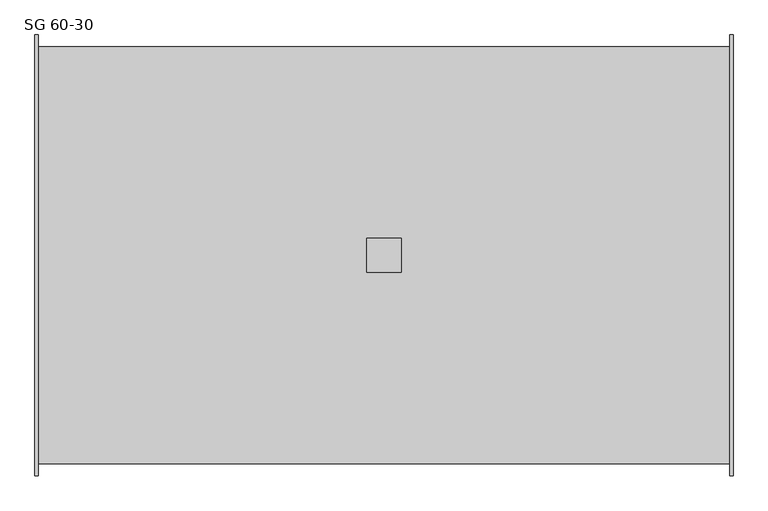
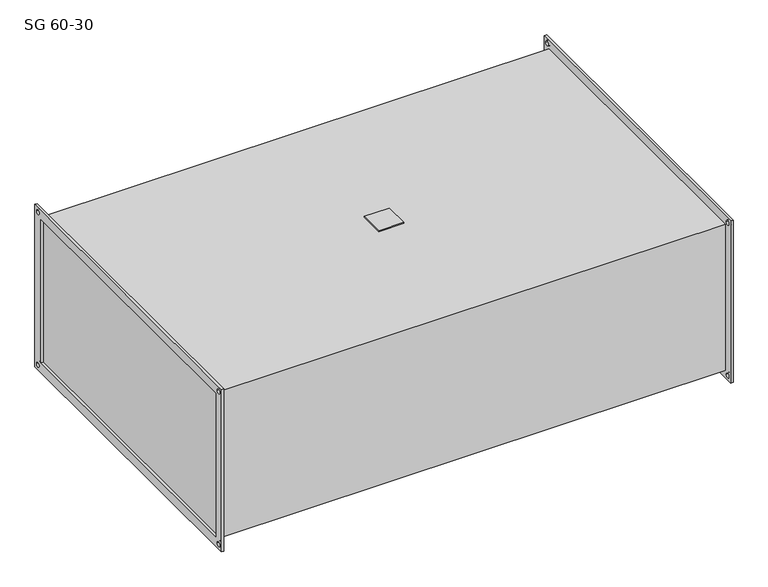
"""IFC4 building model written with IfcOpenShell, lengths in millimetres: damper geometry, KORF_Шумоглушитель_SG : SG 60-30."""

from ifc_helpers import new_model, si_unit, point, frame, frame_2d, origin, place, context, project, spatial, polyline, circle_curve, trimmed, segment, composite_curve, outline, extrude, source, transform, mapped, element, save


def sg_60_30_53cb04a9(model_context):
    return source(origin(), model_context, "Body", "SweptSolid", [
        extrude(outline(polyline([(482.0, -25.0), (482.0, 25.0), (532.0, 25.0), (532.0, -25.0), (482.0, -25.0)])), frame((0.0, 0.0, 153.0), z_axis=(0.0, 0.0, 1.0), x_axis=(1.0, 0.0, 0.0)), (0.0, 0.0, 1.0), 2.0),
        extrude(outline(polyline([(-320.0, 170.0), (320.0, 170.0), (320.0, -170.0), (-320.0, -170.0), (-320.0, 170.0)]), holes=[polyline([(-300.0, 150.0), (-300.0, -150.0), (300.0, -150.0), (300.0, 150.0), (-300.0, 150.0)]), composite_curve([segment(trimmed(circle_curve(frame_2d((310.0, 160.0)), 4.5), [point((305.5, 160.0))], [point((314.5, 160.0))], True, "CARTESIAN"), True, "CONTINUOUS"), segment(trimmed(circle_curve(frame_2d((310.0, 160.0)), 4.5), [point((314.5, 160.0))], [point((305.5, 160.0))], True, "CARTESIAN"), True, "CONTINUOUS")], self_intersect=False), composite_curve([segment(trimmed(circle_curve(frame_2d((-310.0, 160.0)), 4.5), [point((-314.5, 160.0))], [point((-305.5, 160.0))], True, "CARTESIAN"), True, "CONTINUOUS"), segment(trimmed(circle_curve(frame_2d((-310.0, 160.0)), 4.5), [point((-305.5, 160.0))], [point((-314.5, 160.0))], True, "CARTESIAN"), True, "CONTINUOUS")], self_intersect=False), composite_curve([segment(trimmed(circle_curve(frame_2d((-310.0, -160.0)), 4.5), [point((-314.5, -160.0))], [point((-305.5, -160.0))], True, "CARTESIAN"), True, "CONTINUOUS"), segment(trimmed(circle_curve(frame_2d((-310.0, -160.0)), 4.5), [point((-305.5, -160.0))], [point((-314.5, -160.0))], True, "CARTESIAN"), True, "CONTINUOUS")], self_intersect=False), composite_curve([segment(trimmed(circle_curve(frame_2d((310.0, -160.0)), 4.5), [point((305.5, -160.0))], [point((314.5, -160.0))], True, "CARTESIAN"), True, "CONTINUOUS"), segment(trimmed(circle_curve(frame_2d((310.0, -160.0)), 4.5), [point((314.5, -160.0))], [point((305.5, -160.0))], True, "CARTESIAN"), True, "CONTINUOUS")], self_intersect=False)]), frame((1009.0, 0.0, 0.0), z_axis=(1.0, 0.0, 0.0), x_axis=(0.0, 1.0, 0.0)), (0.0, 0.0, 1.0), 5.0),
        extrude(outline(polyline([(-320.0, 170.0), (320.0, 170.0), (320.0, -170.0), (-320.0, -170.0), (-320.0, 170.0)]), holes=[polyline([(-300.0, 150.0), (-300.0, -150.0), (300.0, -150.0), (300.0, 150.0), (-300.0, 150.0)]), composite_curve([segment(trimmed(circle_curve(frame_2d((310.0, 160.0)), 4.5), [point((305.5, 160.0))], [point((314.5, 160.0))], True, "CARTESIAN"), True, "CONTINUOUS"), segment(trimmed(circle_curve(frame_2d((310.0, 160.0)), 4.5), [point((314.5, 160.0))], [point((305.5, 160.0))], True, "CARTESIAN"), True, "CONTINUOUS")], self_intersect=False), composite_curve([segment(trimmed(circle_curve(frame_2d((-310.0, 160.0)), 4.5), [point((-314.5, 160.0))], [point((-305.5, 160.0))], True, "CARTESIAN"), True, "CONTINUOUS"), segment(trimmed(circle_curve(frame_2d((-310.0, 160.0)), 4.5), [point((-305.5, 160.0))], [point((-314.5, 160.0))], True, "CARTESIAN"), True, "CONTINUOUS")], self_intersect=False), composite_curve([segment(trimmed(circle_curve(frame_2d((-310.0, -160.0)), 4.5), [point((-314.5, -160.0))], [point((-305.5, -160.0))], True, "CARTESIAN"), True, "CONTINUOUS"), segment(trimmed(circle_curve(frame_2d((-310.0, -160.0)), 4.5), [point((-305.5, -160.0))], [point((-314.5, -160.0))], True, "CARTESIAN"), True, "CONTINUOUS")], self_intersect=False), composite_curve([segment(trimmed(circle_curve(frame_2d((310.0, -160.0)), 4.5), [point((305.5, -160.0))], [point((314.5, -160.0))], True, "CARTESIAN"), True, "CONTINUOUS"), segment(trimmed(circle_curve(frame_2d((310.0, -160.0)), 4.5), [point((314.5, -160.0))], [point((305.5, -160.0))], True, "CARTESIAN"), True, "CONTINUOUS")], self_intersect=False)]), frame((0.0, 0.0, 0.0), z_axis=(1.0, 0.0, 0.0), x_axis=(0.0, 1.0, 0.0)), (0.0, 0.0, 1.0), 5.0),
        extrude(outline(polyline([(1009.0, 303.0), (1009.0, -303.0), (5.0, -303.0), (5.0, 303.0), (1009.0, 303.0)])), frame((0.0, 0.0, -153.0), z_axis=(0.0, 0.0, 1.0), x_axis=(1.0, 0.0, 0.0)), (0.0, 0.0, 1.0), 306.0),
    ])


if __name__ == "__main__":
    model = new_model("IFC4")
    model_context = context("Model", 3, world=origin())
    ifc_project = project(units=[si_unit("LENGTHUNIT", "METRE", prefix="MILLI")], contexts=[model_context])
    site = spatial("IfcSite", under=ifc_project)
    building = spatial("IfcBuilding", under=site)
    placement = place(None, origin())
    sg_60_30_shape = sg_60_30_53cb04a9(model_context)
    element("IfcDamper", 1, ObjectType="KORF_Шумоглушитель_SG : SG 60-30", at=placement, inside=building, context=model_context, shape_type="MappedRepresentation", body=[
        mapped(sg_60_30_shape, transform((0.0, 0.0, 0.0), x_axis=(1.0, 0.0, 0.0), y_axis=(0.0, 1.0, 0.0), z_axis=(0.0, 0.0, 1.0))),
    ])
    save(model, "model.ifc")
